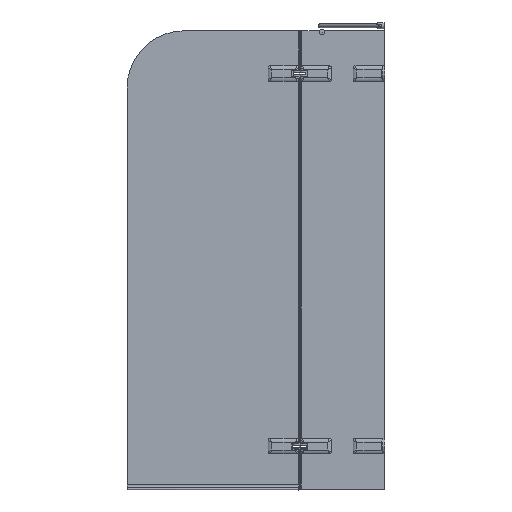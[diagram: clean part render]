
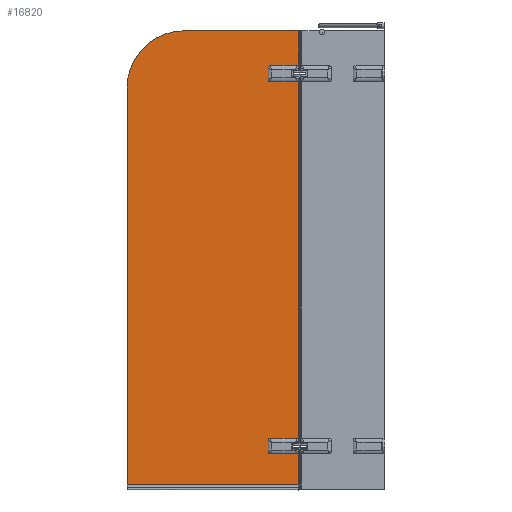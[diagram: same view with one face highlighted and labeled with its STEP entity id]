
A CAD part, left-side view. The second image highlights one B-rep face of the part: STEP entity #16820.
In plain terms, the highlighted planar face has unit normal (-1, 0, 0).
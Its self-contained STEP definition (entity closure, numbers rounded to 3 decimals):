
#339=FACE_BOUND($,#2135,.T.);
#340=FACE_BOUND($,#2136,.T.);
#341=FACE_BOUND($,#2137,.T.);
#2135=EDGE_LOOP($,(#13640));
#2136=EDGE_LOOP($,(#13641));
#2137=EDGE_LOOP($,(#13642,#13643,#13644,#13645,#13646,#13647,#13648,#13649,
#13650,#13651,#13652,#13653,#13654,#13655,#13656,#13657,#13658));
#2690=CIRCLE($,#17757,5.);
#2750=CIRCLE($,#17934,5.);
#2811=CIRCLE($,#18124,10.);
#2812=CIRCLE($,#18125,10.);
#2813=CIRCLE($,#18126,200.);
#2814=CIRCLE($,#18127,10.);
#2815=CIRCLE($,#18128,10.);
#3737=LINE($,#26246,#5372);
#3756=LINE($,#26449,#5391);
#3983=LINE($,#27205,#5618);
#4222=LINE($,#28188,#5857);
#4223=LINE($,#28192,#5858);
#4224=LINE($,#28195,#5859);
#4225=LINE($,#28197,#5860);
#4226=LINE($,#28201,#5861);
#4227=LINE($,#28202,#5862);
#4228=LINE($,#28204,#5863);
#4229=LINE($,#28208,#5864);
#4230=LINE($,#28211,#5865);
#5372=VECTOR($,#20600,116.4);
#5391=VECTOR($,#20651,1262.);
#5618=VECTOR($,#21230,131.);
#5857=VECTOR($,#21893,30.745);
#5858=VECTOR($,#21896,18.);
#5859=VECTOR($,#21899,30.745);
#5860=VECTOR($,#21900,398.745);
#5861=VECTOR($,#21903,1385.4);
#5862=VECTOR($,#21904,598.745);
#5863=VECTOR($,#21905,30.745);
#5864=VECTOR($,#21908,18.);
#5865=VECTOR($,#21911,30.745);
#6999=VERTEX_POINT($,#26243);
#7000=VERTEX_POINT($,#26245);
#7044=VERTEX_POINT($,#26446);
#7045=VERTEX_POINT($,#26448);
#7085=VERTEX_POINT($,#26549);
#7241=VERTEX_POINT($,#27202);
#7242=VERTEX_POINT($,#27204);
#7299=VERTEX_POINT($,#27350);
#7448=VERTEX_POINT($,#28187);
#7449=VERTEX_POINT($,#28189);
#7450=VERTEX_POINT($,#28191);
#7451=VERTEX_POINT($,#28193);
#7452=VERTEX_POINT($,#28196);
#7453=VERTEX_POINT($,#28198);
#7454=VERTEX_POINT($,#28200);
#7455=VERTEX_POINT($,#28203);
#7456=VERTEX_POINT($,#28205);
#7457=VERTEX_POINT($,#28207);
#7458=VERTEX_POINT($,#28209);
#8911=EDGE_CURVE($,#6999,#7000,#3737,.T.);
#8958=EDGE_CURVE($,#7044,#7045,#3756,.T.);
#9010=EDGE_CURVE($,#7085,#7085,#2690,.T.);
#9264=EDGE_CURVE($,#7241,#7242,#3983,.T.);
#9333=EDGE_CURVE($,#7299,#7299,#2750,.T.);
#9604=EDGE_CURVE($,#7448,#7044,#4222,.T.);
#9605=EDGE_CURVE($,#7448,#7449,#2811,.T.);
#9606=EDGE_CURVE($,#7450,#7449,#4223,.T.);
#9607=EDGE_CURVE($,#7450,#7451,#2812,.T.);
#9608=EDGE_CURVE($,#7242,#7451,#4224,.T.);
#9609=EDGE_CURVE($,#7241,#7452,#4225,.T.);
#9610=EDGE_CURVE($,#7452,#7453,#2813,.T.);
#9611=EDGE_CURVE($,#7454,#7453,#4226,.T.);
#9612=EDGE_CURVE($,#7454,#7000,#4227,.T.);
#9613=EDGE_CURVE($,#7455,#6999,#4228,.T.);
#9614=EDGE_CURVE($,#7455,#7456,#2814,.T.);
#9615=EDGE_CURVE($,#7457,#7456,#4229,.T.);
#9616=EDGE_CURVE($,#7457,#7458,#2815,.T.);
#9617=EDGE_CURVE($,#7045,#7458,#4230,.T.);
#13640=ORIENTED_EDGE($,*,*,#9010,.F.);
#13641=ORIENTED_EDGE($,*,*,#9333,.F.);
#13642=ORIENTED_EDGE($,*,*,#8958,.F.);
#13643=ORIENTED_EDGE($,*,*,#9604,.F.);
#13644=ORIENTED_EDGE($,*,*,#9605,.T.);
#13645=ORIENTED_EDGE($,*,*,#9606,.F.);
#13646=ORIENTED_EDGE($,*,*,#9607,.T.);
#13647=ORIENTED_EDGE($,*,*,#9608,.F.);
#13648=ORIENTED_EDGE($,*,*,#9264,.F.);
#13649=ORIENTED_EDGE($,*,*,#9609,.T.);
#13650=ORIENTED_EDGE($,*,*,#9610,.T.);
#13651=ORIENTED_EDGE($,*,*,#9611,.F.);
#13652=ORIENTED_EDGE($,*,*,#9612,.T.);
#13653=ORIENTED_EDGE($,*,*,#8911,.F.);
#13654=ORIENTED_EDGE($,*,*,#9613,.F.);
#13655=ORIENTED_EDGE($,*,*,#9614,.T.);
#13656=ORIENTED_EDGE($,*,*,#9615,.F.);
#13657=ORIENTED_EDGE($,*,*,#9616,.T.);
#13658=ORIENTED_EDGE($,*,*,#9617,.F.);
#15232=PLANE($,#18123);
#16820=ADVANCED_FACE($,(#339,#340,#341),#15232,.F.);
#17757=AXIS2_PLACEMENT_3D($,#26550,#20733,#20734);
#17934=AXIS2_PLACEMENT_3D($,#27351,#21335,#21336);
#18123=AXIS2_PLACEMENT_3D($,#28186,#21891,#21892);
#18124=AXIS2_PLACEMENT_3D($,#28190,#21894,#21895);
#18125=AXIS2_PLACEMENT_3D($,#28194,#21897,#21898);
#18126=AXIS2_PLACEMENT_3D($,#28199,#21901,#21902);
#18127=AXIS2_PLACEMENT_3D($,#28206,#21906,#21907);
#18128=AXIS2_PLACEMENT_3D($,#28210,#21909,#21910);
#20600=DIRECTION($,(0.,0.,-1.));
#20651=DIRECTION($,(0.,0.,-1.));
#20733=DIRECTION('center_axis',(-1.,0.,0.));
#20734=DIRECTION('ref_axis',(0.,1.,0.));
#21230=DIRECTION($,(0.,0.,-1.));
#21335=DIRECTION('center_axis',(-1.,0.,0.));
#21336=DIRECTION('ref_axis',(0.,1.,0.));
#21891=DIRECTION('center_axis',(1.,0.,0.));
#21892=DIRECTION('ref_axis',(0.,1.,0.));
#21893=DIRECTION($,(0.,-1.,0.));
#21894=DIRECTION('center_axis',(1.,0.,0.));
#21895=DIRECTION('ref_axis',(0.,0.707,-0.707));
#21896=DIRECTION($,(0.,0.,-1.));
#21897=DIRECTION('center_axis',(1.,0.,0.));
#21898=DIRECTION('ref_axis',(0.,0.707,0.707));
#21899=DIRECTION($,(0.,1.,0.));
#21900=DIRECTION($,(0.,1.,0.));
#21901=DIRECTION('center_axis',(-1.,0.,0.));
#21902=DIRECTION('ref_axis',(0.,0.707,0.707));
#21903=DIRECTION($,(0.,0.,1.));
#21904=DIRECTION($,(0.,-1.,0.));
#21905=DIRECTION($,(0.,-1.,0.));
#21906=DIRECTION('center_axis',(1.,0.,0.));
#21907=DIRECTION('ref_axis',(0.,0.707,-0.707));
#21908=DIRECTION($,(0.,0.,-1.));
#21909=DIRECTION('center_axis',(1.,0.,0.));
#21910=DIRECTION('ref_axis',(0.,0.707,0.707));
#21911=DIRECTION($,(0.,1.,0.));
#26243=CARTESIAN_POINT('',(1225.733,-252.789,156.944));
#26245=CARTESIAN_POINT('',(1225.733,-252.789,40.544));
#26246=CARTESIAN_POINT($,(1225.733,-252.789,165.944));
#26446=CARTESIAN_POINT('',(1225.733,-252.789,1456.944));
#26448=CARTESIAN_POINT('',(1225.733,-252.789,194.944));
#26449=CARTESIAN_POINT($,(1225.733,-252.789,185.944));
#26549=CARTESIAN_POINT('',(1225.733,-194.044,175.944));
#26550=CARTESIAN_POINT('Origin',(1225.733,-189.044,175.944));
#27202=CARTESIAN_POINT('',(1225.733,-252.789,1625.944));
#27204=CARTESIAN_POINT('',(1225.733,-252.789,1494.944));
#27205=CARTESIAN_POINT($,(1225.733,-252.789,1485.944));
#27350=CARTESIAN_POINT('',(1225.733,-194.044,1475.944));
#27351=CARTESIAN_POINT('Origin',(1225.733,-189.044,1475.944));
#28186=CARTESIAN_POINT('Origin',(1225.733,-254.044,35.944));
#28187=CARTESIAN_POINT('',(1225.733,-222.044,1456.944));
#28188=CARTESIAN_POINT($,(1225.733,-233.044,1456.944));
#28189=CARTESIAN_POINT('',(1225.733,-212.044,1466.944));
#28190=CARTESIAN_POINT('Origin',(1225.733,-222.044,1466.944));
#28191=CARTESIAN_POINT('',(1225.733,-212.044,1484.944));
#28192=CARTESIAN_POINT($,(1225.733,-212.044,765.444));
#28193=CARTESIAN_POINT('',(1225.733,-222.044,1494.944));
#28194=CARTESIAN_POINT('Origin',(1225.733,-222.044,1484.944));
#28195=CARTESIAN_POINT($,(1225.733,-254.044,1494.944));
#28196=CARTESIAN_POINT('',(1225.733,145.956,1625.944));
#28197=CARTESIAN_POINT($,(1225.733,-254.044,1625.944));
#28198=CARTESIAN_POINT('',(1225.733,345.956,1425.944));
#28199=CARTESIAN_POINT('Origin',(1225.733,145.956,1425.944));
#28200=CARTESIAN_POINT('',(1225.733,345.956,40.544));
#28201=CARTESIAN_POINT($,(1225.733,345.956,35.944));
#28202=CARTESIAN_POINT($,(1225.733,345.956,40.544));
#28203=CARTESIAN_POINT('',(1225.733,-222.044,156.944));
#28204=CARTESIAN_POINT($,(1225.733,-233.044,156.944));
#28205=CARTESIAN_POINT('',(1225.733,-212.044,166.944));
#28206=CARTESIAN_POINT('Origin',(1225.733,-222.044,166.944));
#28207=CARTESIAN_POINT('',(1225.733,-212.044,184.944));
#28208=CARTESIAN_POINT($,(1225.733,-212.044,115.444));
#28209=CARTESIAN_POINT('',(1225.733,-222.044,194.944));
#28210=CARTESIAN_POINT('Origin',(1225.733,-222.044,184.944));
#28211=CARTESIAN_POINT($,(1225.733,-254.044,194.944));
